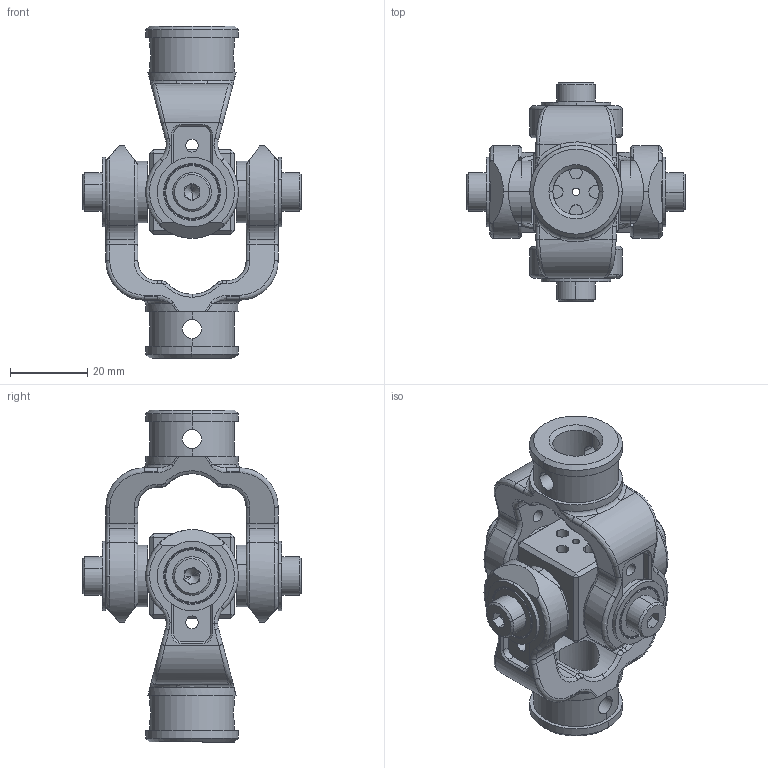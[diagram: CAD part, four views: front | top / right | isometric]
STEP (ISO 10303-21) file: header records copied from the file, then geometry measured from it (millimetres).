
FILE_DESCRIPTION (( 'STEP AP203' ), '1' );
FILE_NAME ('HJ-M-02.STEP', '2022-04-08T08:37:45', ( 'Windows 蚚誧' ), ( '' ), 'SwSTEP 2.0', 'SolidWorks 2020', '' );
FILE_SCHEMA (( 'CONFIG_CONTROL_DESIGN' ));
Length unit declared in the file: millimetre
Products named in the file (1): HJ-M-02
Bounding box: 56.6 x 56.6 x 86 mm (x, y, z)
Surface area: 21236.7 mm2 (no closed solid volume)
Topology: 0 solids, 19 shells, 472 faces, 1241 edges, 766 vertices
Faces by surface type: cylinder 178, plane 143, torus 52, bspline 50, cone 49
Entity records: 16760 total; most frequent: CARTESIAN_POINT 5506, DIRECTION 2375, ORIENTED_EDGE 2290, EDGE_CURVE 1233, AXIS2_PLACEMENT_3D 935, VERTEX_POINT 766, CIRCLE 512, EDGE_LOOP 510
